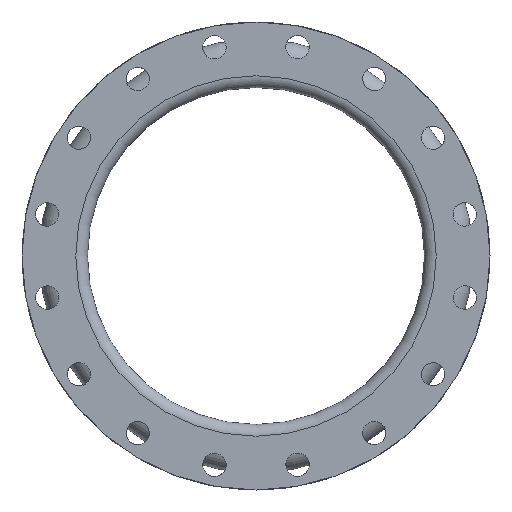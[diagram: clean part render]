
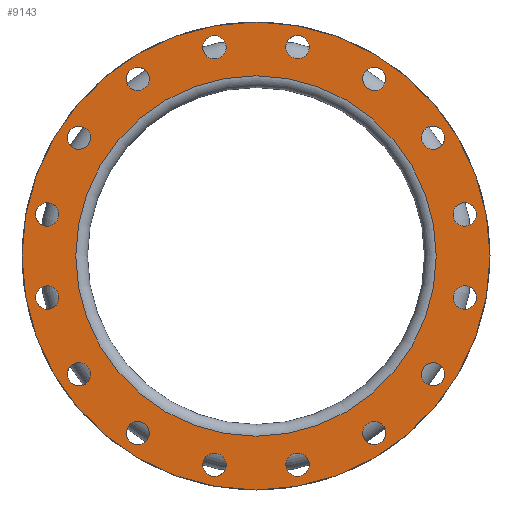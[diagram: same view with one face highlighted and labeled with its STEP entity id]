
A CAD part, left-side view. The second image highlights one B-rep face of the part: STEP entity #9143.
In plain terms, the highlighted planar face has unit normal (-1, 0, 0).
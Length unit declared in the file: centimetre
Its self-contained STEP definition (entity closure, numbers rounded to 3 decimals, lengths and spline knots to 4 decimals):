
#144=FACE_BOUND('',#1543,.T.);
#145=FACE_BOUND('',#1544,.T.);
#146=FACE_BOUND('',#1545,.T.);
#147=FACE_BOUND('',#1546,.T.);
#148=FACE_BOUND('',#1547,.T.);
#149=FACE_BOUND('',#1548,.T.);
#150=FACE_BOUND('',#1549,.T.);
#151=FACE_BOUND('',#1550,.T.);
#152=FACE_BOUND('',#1551,.T.);
#153=FACE_BOUND('',#1552,.T.);
#154=FACE_BOUND('',#1553,.T.);
#155=FACE_BOUND('',#1554,.T.);
#156=FACE_BOUND('',#1555,.T.);
#157=FACE_BOUND('',#1556,.T.);
#158=FACE_BOUND('',#1557,.T.);
#159=FACE_BOUND('',#1558,.T.);
#160=FACE_BOUND('',#1559,.T.);
#161=FACE_BOUND('',#1560,.T.);
#1543=EDGE_LOOP('',(#6999));
#1544=EDGE_LOOP('',(#7000));
#1545=EDGE_LOOP('',(#7001));
#1546=EDGE_LOOP('',(#7002));
#1547=EDGE_LOOP('',(#7003));
#1548=EDGE_LOOP('',(#7004));
#1549=EDGE_LOOP('',(#7005));
#1550=EDGE_LOOP('',(#7006));
#1551=EDGE_LOOP('',(#7007));
#1552=EDGE_LOOP('',(#7008));
#1553=EDGE_LOOP('',(#7009));
#1554=EDGE_LOOP('',(#7010));
#1555=EDGE_LOOP('',(#7011));
#1556=EDGE_LOOP('',(#7012));
#1557=EDGE_LOOP('',(#7013));
#1558=EDGE_LOOP('',(#7014));
#1559=EDGE_LOOP('',(#7015));
#1560=EDGE_LOOP('',(#7016));
#3186=CIRCLE('',#9965,1.5875);
#3188=CIRCLE('',#9968,1.5875);
#3190=CIRCLE('',#9971,1.5875);
#3192=CIRCLE('',#9974,1.5875);
#3194=CIRCLE('',#9977,1.5875);
#3196=CIRCLE('',#9980,1.5875);
#3198=CIRCLE('',#9983,1.5875);
#3200=CIRCLE('',#9986,1.5875);
#3202=CIRCLE('',#9989,1.5875);
#3204=CIRCLE('',#9992,1.5875);
#3206=CIRCLE('',#9995,1.5875);
#3208=CIRCLE('',#9998,1.5875);
#3210=CIRCLE('',#10001,1.5875);
#3212=CIRCLE('',#10004,1.5875);
#3214=CIRCLE('',#10007,1.5875);
#3216=CIRCLE('',#10010,1.5875);
#3260=CIRCLE('',#10081,24.4475);
#3261=CIRCLE('',#10083,31.75);
#4026=VERTEX_POINT('',#14945);
#4028=VERTEX_POINT('',#14950);
#4030=VERTEX_POINT('',#14955);
#4032=VERTEX_POINT('',#14960);
#4034=VERTEX_POINT('',#14965);
#4036=VERTEX_POINT('',#14970);
#4038=VERTEX_POINT('',#14975);
#4040=VERTEX_POINT('',#14980);
#4042=VERTEX_POINT('',#14985);
#4044=VERTEX_POINT('',#14990);
#4046=VERTEX_POINT('',#14995);
#4048=VERTEX_POINT('',#15000);
#4050=VERTEX_POINT('',#15005);
#4052=VERTEX_POINT('',#15010);
#4054=VERTEX_POINT('',#15015);
#4056=VERTEX_POINT('',#15020);
#4100=VERTEX_POINT('',#15135);
#4101=VERTEX_POINT('',#15138);
#5090=EDGE_CURVE('',#4026,#4026,#3186,.T.);
#5092=EDGE_CURVE('',#4028,#4028,#3188,.T.);
#5094=EDGE_CURVE('',#4030,#4030,#3190,.T.);
#5096=EDGE_CURVE('',#4032,#4032,#3192,.T.);
#5098=EDGE_CURVE('',#4034,#4034,#3194,.T.);
#5100=EDGE_CURVE('',#4036,#4036,#3196,.T.);
#5102=EDGE_CURVE('',#4038,#4038,#3198,.T.);
#5104=EDGE_CURVE('',#4040,#4040,#3200,.T.);
#5106=EDGE_CURVE('',#4042,#4042,#3202,.T.);
#5108=EDGE_CURVE('',#4044,#4044,#3204,.T.);
#5110=EDGE_CURVE('',#4046,#4046,#3206,.T.);
#5112=EDGE_CURVE('',#4048,#4048,#3208,.T.);
#5114=EDGE_CURVE('',#4050,#4050,#3210,.T.);
#5116=EDGE_CURVE('',#4052,#4052,#3212,.T.);
#5118=EDGE_CURVE('',#4054,#4054,#3214,.T.);
#5120=EDGE_CURVE('',#4056,#4056,#3216,.T.);
#5164=EDGE_CURVE('',#4100,#4100,#3260,.T.);
#5165=EDGE_CURVE('',#4101,#4101,#3261,.T.);
#6999=ORIENTED_EDGE('',*,*,#5090,.T.);
#7000=ORIENTED_EDGE('',*,*,#5092,.T.);
#7001=ORIENTED_EDGE('',*,*,#5094,.T.);
#7002=ORIENTED_EDGE('',*,*,#5096,.T.);
#7003=ORIENTED_EDGE('',*,*,#5098,.T.);
#7004=ORIENTED_EDGE('',*,*,#5100,.T.);
#7005=ORIENTED_EDGE('',*,*,#5102,.T.);
#7006=ORIENTED_EDGE('',*,*,#5104,.T.);
#7007=ORIENTED_EDGE('',*,*,#5106,.T.);
#7008=ORIENTED_EDGE('',*,*,#5108,.T.);
#7009=ORIENTED_EDGE('',*,*,#5110,.T.);
#7010=ORIENTED_EDGE('',*,*,#5112,.T.);
#7011=ORIENTED_EDGE('',*,*,#5114,.T.);
#7012=ORIENTED_EDGE('',*,*,#5116,.T.);
#7013=ORIENTED_EDGE('',*,*,#5118,.T.);
#7014=ORIENTED_EDGE('',*,*,#5120,.T.);
#7015=ORIENTED_EDGE('',*,*,#5165,.F.);
#7016=ORIENTED_EDGE('',*,*,#5164,.T.);
#8313=PLANE('',#10082);
#9143=ADVANCED_FACE('',(#144,#145,#146,#147,#148,#149,#150,#151,#152,#153,
#154,#155,#156,#157,#158,#159,#160,#161),#8313,.T.);
#9965=AXIS2_PLACEMENT_3D('',#14946,#12069,#12070);
#9968=AXIS2_PLACEMENT_3D('',#14951,#12075,#12076);
#9971=AXIS2_PLACEMENT_3D('',#14956,#12081,#12082);
#9974=AXIS2_PLACEMENT_3D('',#14961,#12087,#12088);
#9977=AXIS2_PLACEMENT_3D('',#14966,#12093,#12094);
#9980=AXIS2_PLACEMENT_3D('',#14971,#12099,#12100);
#9983=AXIS2_PLACEMENT_3D('',#14976,#12105,#12106);
#9986=AXIS2_PLACEMENT_3D('',#14981,#12111,#12112);
#9989=AXIS2_PLACEMENT_3D('',#14986,#12117,#12118);
#9992=AXIS2_PLACEMENT_3D('',#14991,#12123,#12124);
#9995=AXIS2_PLACEMENT_3D('',#14996,#12129,#12130);
#9998=AXIS2_PLACEMENT_3D('',#15001,#12135,#12136);
#10001=AXIS2_PLACEMENT_3D('',#15006,#12141,#12142);
#10004=AXIS2_PLACEMENT_3D('',#15011,#12147,#12148);
#10007=AXIS2_PLACEMENT_3D('',#15016,#12153,#12154);
#10010=AXIS2_PLACEMENT_3D('',#15021,#12159,#12160);
#10081=AXIS2_PLACEMENT_3D('',#15136,#12301,#12302);
#10082=AXIS2_PLACEMENT_3D('',#15137,#12303,#12304);
#10083=AXIS2_PLACEMENT_3D('',#15139,#12305,#12306);
#12069=DIRECTION('center_axis',(1.,0.,0.));
#12070=DIRECTION('ref_axis',(0.,-0.924,
0.383));
#12075=DIRECTION('center_axis',(1.,0.,0.));
#12076=DIRECTION('ref_axis',(0.,-0.707,
0.707));
#12081=DIRECTION('center_axis',(1.,0.,0.));
#12082=DIRECTION('ref_axis',(0.,-0.383,0.924));
#12087=DIRECTION('center_axis',(1.,0.,0.));
#12088=DIRECTION('ref_axis',(0.,0.,
1.));
#12093=DIRECTION('center_axis',(1.,0.,0.));
#12094=DIRECTION('ref_axis',(0.,0.383,0.924));
#12099=DIRECTION('center_axis',(1.,0.,0.));
#12100=DIRECTION('ref_axis',(0.,0.707,0.707));
#12105=DIRECTION('center_axis',(1.,0.,0.));
#12106=DIRECTION('ref_axis',(0.,0.924,0.383));
#12111=DIRECTION('center_axis',(1.,0.,0.));
#12112=DIRECTION('ref_axis',(0.,1.,0.));
#12117=DIRECTION('center_axis',(1.,0.,0.));
#12118=DIRECTION('ref_axis',(0.,0.924,-0.383));
#12123=DIRECTION('center_axis',(1.,0.,0.));
#12124=DIRECTION('ref_axis',(0.,0.707,-0.707));
#12129=DIRECTION('center_axis',(1.,0.,0.));
#12130=DIRECTION('ref_axis',(0.,0.383,-0.924));
#12135=DIRECTION('center_axis',(1.,0.,0.));
#12136=DIRECTION('ref_axis',(0.,0.,
-1.));
#12141=DIRECTION('center_axis',(1.,0.,0.));
#12142=DIRECTION('ref_axis',(0.,-0.383,-0.924));
#12147=DIRECTION('center_axis',(1.,0.,0.));
#12148=DIRECTION('ref_axis',(0.,-0.707,
-0.707));
#12153=DIRECTION('center_axis',(1.,0.,0.));
#12154=DIRECTION('ref_axis',(0.,-0.924,
-0.383));
#12159=DIRECTION('center_axis',(1.,0.,0.));
#12160=DIRECTION('ref_axis',(0.,-1.,0.));
#12301=DIRECTION('center_axis',(1.,0.,0.));
#12302=DIRECTION('ref_axis',(0.,0.,-1.));
#12303=DIRECTION('center_axis',(-1.,0.,0.));
#12304=DIRECTION('ref_axis',(0.,0.,1.));
#12305=DIRECTION('center_axis',(1.,0.,0.));
#12306=DIRECTION('ref_axis',(0.,0.,-1.));
#14945=CARTESIAN_POINT('',(-15.24,25.4899,-16.6593));
#14946=CARTESIAN_POINT('Origin',(-15.24,24.0232,-16.0518));
#14950=CARTESIAN_POINT('',(-15.24,17.1743,-25.1458));
#14951=CARTESIAN_POINT('Origin',(-15.24,16.0518,-24.0232));
#14955=CARTESIAN_POINT('',(-15.24,6.2442,-29.804));
#14956=CARTESIAN_POINT('Origin',(-15.24,5.6366,-28.3373));
#14960=CARTESIAN_POINT('',(-15.24,-5.6366,-29.9248));
#14961=CARTESIAN_POINT('Origin',(-15.24,-5.6366,-28.3373));
#14965=CARTESIAN_POINT('',(-15.24,-16.6593,-25.4899));
#14966=CARTESIAN_POINT('Origin',(-15.24,-16.0518,-24.0232));
#14970=CARTESIAN_POINT('',(-15.24,-25.1458,-17.1743));
#14971=CARTESIAN_POINT('Origin',(-15.24,-24.0232,-16.0518));
#14975=CARTESIAN_POINT('',(-15.24,-29.804,-6.2442));
#14976=CARTESIAN_POINT('Origin',(-15.24,-28.3373,-5.6366));
#14980=CARTESIAN_POINT('',(-15.24,-29.9248,5.6366));
#14981=CARTESIAN_POINT('Origin',(-15.24,-28.3373,5.6366));
#14985=CARTESIAN_POINT('',(-15.24,-25.4899,16.6593));
#14986=CARTESIAN_POINT('Origin',(-15.24,-24.0232,16.0518));
#14990=CARTESIAN_POINT('',(-15.24,-17.1743,25.1458));
#14991=CARTESIAN_POINT('Origin',(-15.24,-16.0518,24.0232));
#14995=CARTESIAN_POINT('',(-15.24,-6.2442,29.804));
#14996=CARTESIAN_POINT('Origin',(-15.24,-5.6366,28.3373));
#15000=CARTESIAN_POINT('',(-15.24,5.6366,29.9248));
#15001=CARTESIAN_POINT('Origin',(-15.24,5.6366,28.3373));
#15005=CARTESIAN_POINT('',(-15.24,16.6593,25.4899));
#15006=CARTESIAN_POINT('Origin',(-15.24,16.0518,24.0232));
#15010=CARTESIAN_POINT('',(-15.24,25.1458,17.1743));
#15011=CARTESIAN_POINT('Origin',(-15.24,24.0232,16.0518));
#15015=CARTESIAN_POINT('',(-15.24,29.804,6.2442));
#15016=CARTESIAN_POINT('Origin',(-15.24,28.3373,5.6366));
#15020=CARTESIAN_POINT('',(-15.24,29.9248,-5.6366));
#15021=CARTESIAN_POINT('Origin',(-15.24,28.3373,-5.6366));
#15135=CARTESIAN_POINT('',(-15.24,24.4475,0.));
#15136=CARTESIAN_POINT('Origin',(-15.24,0.,0.));
#15137=CARTESIAN_POINT('Origin',(-15.24,31.75,0.));
#15138=CARTESIAN_POINT('',(-15.24,31.75,0.));
#15139=CARTESIAN_POINT('Origin',(-15.24,0.,0.));
